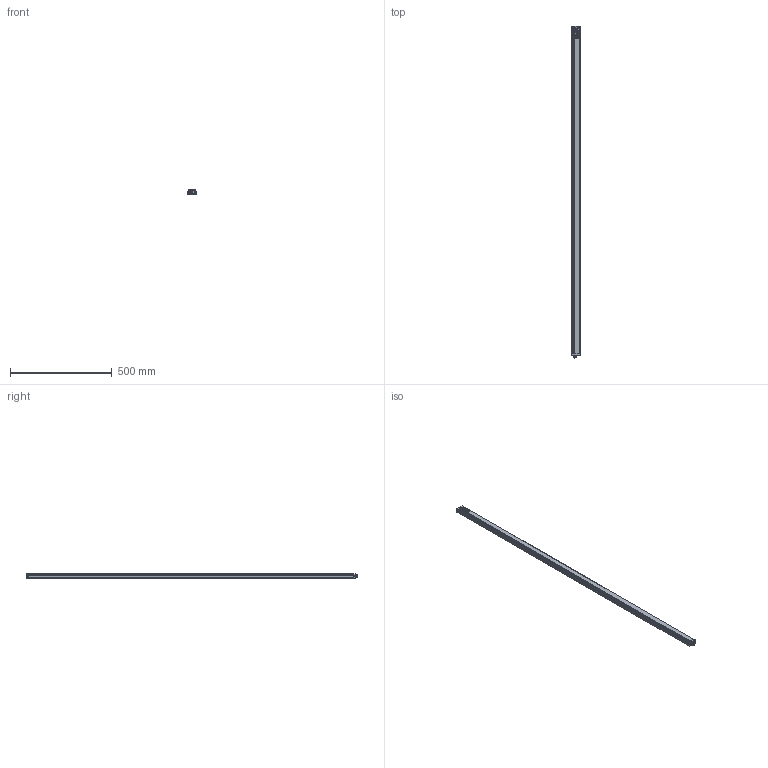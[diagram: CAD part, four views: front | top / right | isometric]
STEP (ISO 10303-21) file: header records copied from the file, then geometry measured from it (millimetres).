
FILE_DESCRIPTION(/* description */ (''),/* implementation_level */ '2;1');
FILE_NAME(/* name */ 'C:\Users\andre\SynologyDrive\Optoscan\Libreria Componenti\00 - Barriere\Barriera sorgente\Argo_1600_TX.stp',/* time_stamp */ '2021-04-22T10:26:07+02:00',/* author */ ('andre'),/* organization */ (''),/* preprocessor_version */ 'ST-DEVELOPER v18',/* originating_system */ 'Autodesk Inventor 2020',/* authorisation */ '');
FILE_SCHEMA (('AUTOMOTIVE_DESIGN { 1 0 10303 214 3 1 1 }'));
Length unit declared in the file: millimetre
Products named in the file (1): Argo_1600_TX
Bounding box: 40.5 x 1633.3 x 20.75 mm (x, y, z)
Volume: 322877.4 mm3; surface area: 423980.9 mm2
Topology: 1 solids, 1 shells, 696 faces, 1911 edges, 1225 vertices
Faces by surface type: plane 321, cylinder 195, bspline 94, torus 72, cone 8, sphere 6
Full cylindrical faces by diameter (mm): 1 x4, 2.459 x4, 2.5 x4, 3 x4, 3.5 x4, 5.5 x4, 8 x1, 10.5 x2, 11.75 x9, 15.7 x1, 17.5 x1
Entity records: 30770 total; most frequent: CARTESIAN_POINT 12670, ORIENTED_EDGE 3806, DIRECTION 3415, EDGE_CURVE 1903, VERTEX_POINT 1225, AXIS2_PLACEMENT_3D 1193, LINE 1029, VECTOR 1029
